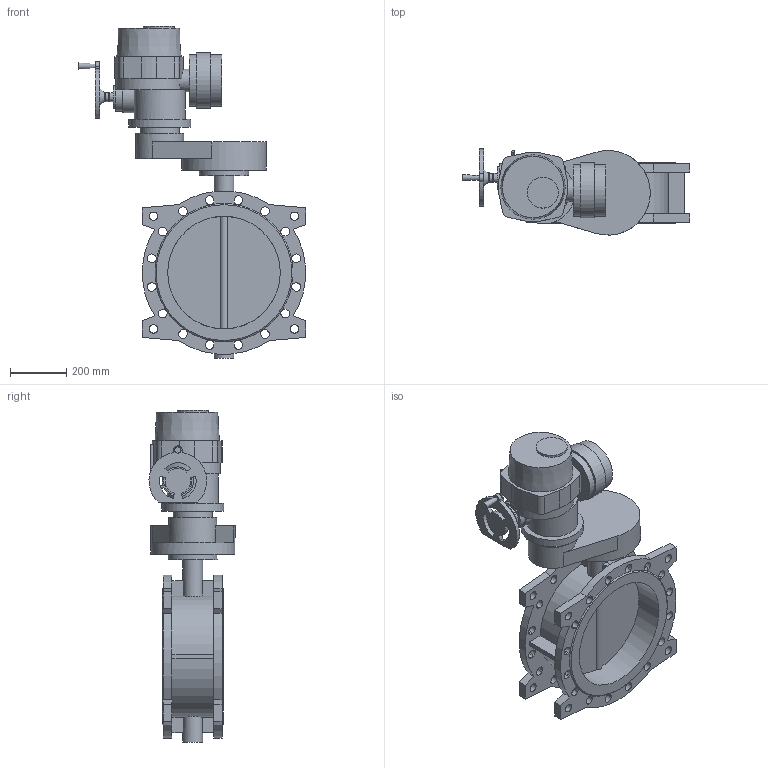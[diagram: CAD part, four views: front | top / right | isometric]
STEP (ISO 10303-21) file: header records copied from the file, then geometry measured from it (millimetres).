
FILE_DESCRIPTION(('STEP AP203'), '1');
FILE_NAME('青蜮铕 021F.Y DN400+菹 QT.A150', '', ('UNSPECIFIED'), ('UNSPECIFIED'), 'ASCON STEP Converter 1.6', 'ASCON Math Kernel', '');
FILE_SCHEMA(('CONFIG_CONTROL_DESIGN'));
Length unit declared in the file: millimetre
Bounding box: 807 x 305.23 x 1178 mm (x, y, z)
Volume: 43915201.5 mm3; surface area: 2545640.4 mm2
Topology: 1 solids, 1 shells, 349 faces, 1003 edges, 664 vertices
Faces by surface type: plane 192, cylinder 151, cone 5, torus 1
Full cylindrical faces by diameter (mm): 10 x2, 14 x12, 16 x1, 17.5 x4, 18 x4, 30 x8, 32 x2, 35 x1, 70 x2, 80 x2, 100 x1, 110 x1, 140 x1, 170 x1, 175 x1, 180 x1, 183 x2, 196 x1, 220 x1, 300 x1, 400 x2
Entity records: 17017 total; most frequent: CARTESIAN_POINT 4851, DIRECTION 1982, ORIENTED_EDGE 1886, EDGE_CURVE 943, AXIS2_PLACEMENT_3D 747, VERTEX_POINT 662, EDGE_LOOP 499, LINE 488
